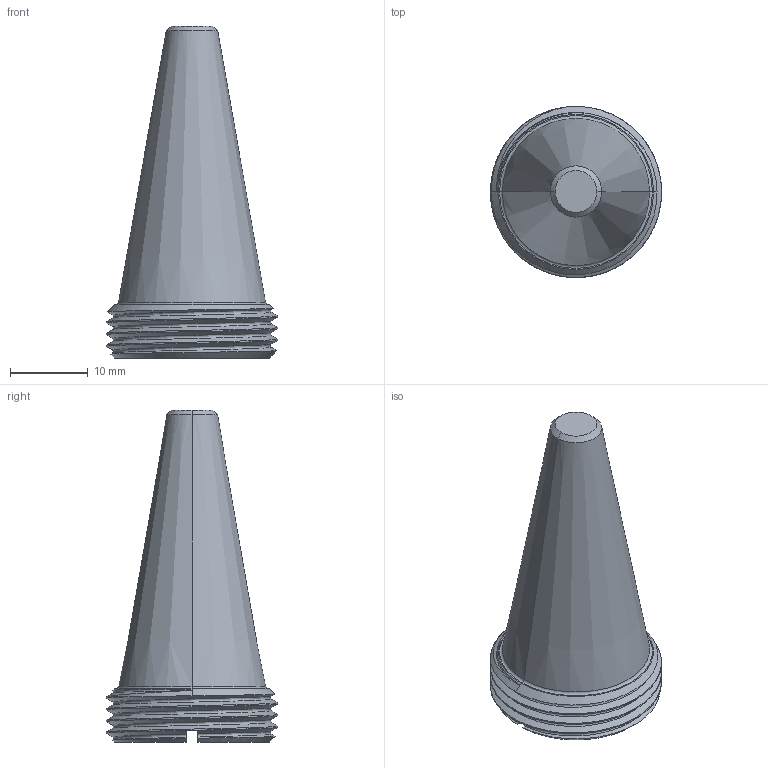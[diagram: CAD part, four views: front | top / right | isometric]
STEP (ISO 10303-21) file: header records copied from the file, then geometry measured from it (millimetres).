
FILE_DESCRIPTION (( 'STEP AP214' ), '1' );
FILE_NAME ('3DFSHB2203000M.STEP', '2021-03-31T18:19:16', ( '' ), ( '' ), 'SwSTEP 2.0', 'SolidWorks 2019', '' );
FILE_SCHEMA (( 'AUTOMOTIVE_DESIGN' ));
Length unit declared in the file: inch
Products named in the file (1): 3DFSHB2203000M
Bounding box: 22 x 22 x 42.65 mm (x, y, z)
Volume: 7202.9 mm3; surface area: 2597.7 mm2
Topology: 1 solids, 1 shells, 232 faces, 620 edges, 412 vertices
Faces by surface type: plane 119, bspline 95, cone 9, cylinder 7, torus 2
Entity records: 19791 total; most frequent: CARTESIAN_POINT 12168, ORIENTED_EDGE 1240, DIRECTION 689, EDGE_CURVE 620, VERTEX_POINT 412, VECTOR 377, LINE 377, EDGE_LOOP 254
